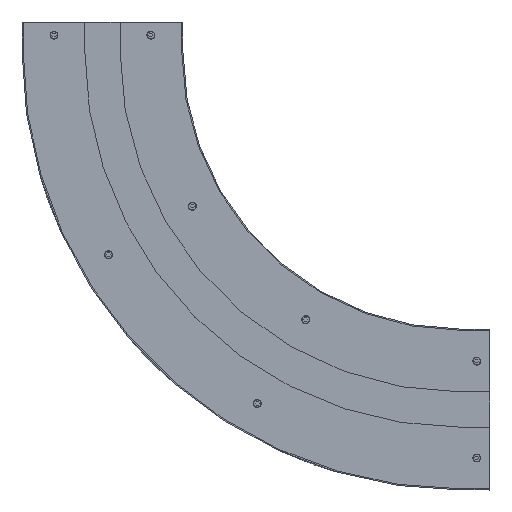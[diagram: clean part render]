
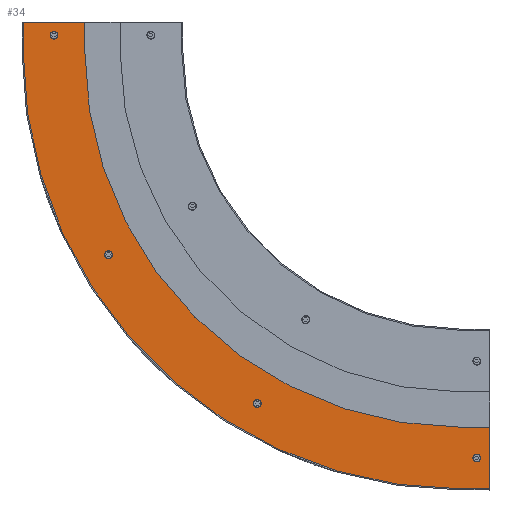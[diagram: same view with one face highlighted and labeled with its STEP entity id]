
A CAD part, front view. The second image highlights one B-rep face of the part: STEP entity #34.
In plain terms, the highlighted planar face has unit normal (0, -1, 0) as drawn and (0, 1, 0) by its records, which use the part's own axes.
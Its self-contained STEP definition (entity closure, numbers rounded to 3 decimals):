
#21 = DIRECTION ( 'NONE',  ( 0., 1., 0. ) ) ;
#34 = ADVANCED_FACE ( 'NONE', ( #12066, #2226, #9600, #5430, #9571 ), #6084, .T. ) ;
#70 = LINE ( 'NONE', #5749, #3692 ) ;
#71 = CARTESIAN_POINT ( 'NONE',  ( 10.277, 30., -396.25 ) ) ;
#352 = AXIS2_PLACEMENT_3D ( 'NONE', #2123, #8481, #1046 ) ;
#598 = CARTESIAN_POINT ( 'NONE',  ( 610., 30., -690. ) ) ;
#612 = ORIENTED_EDGE ( 'NONE', *, *, #12852, .T. ) ;
#738 = EDGE_CURVE ( 'NONE', #9533, #2835, #3886, .T. ) ;
#776 = AXIS2_PLACEMENT_3D ( 'NONE', #4100, #10478, #3029 ) ;
#836 = CARTESIAN_POINT ( 'NONE',  ( -135., 30., 0. ) ) ;
#990 = CARTESIAN_POINT ( 'NONE',  ( 263.75, 30., -656.473 ) ) ;
#1046 = DIRECTION ( 'NONE',  ( 0., 0., 1. ) ) ;
#1092 = CARTESIAN_POINT ( 'NONE',  ( 10.277, 30., -403. ) ) ;
#1164 = DIRECTION ( 'NONE',  ( 0., 0., 1. ) ) ;
#1190 = ORIENTED_EDGE ( 'NONE', *, *, #1720, .F. ) ;
#1462 = DIRECTION ( 'NONE',  ( 0., 0., -1. ) ) ;
#1553 = EDGE_CURVE ( 'NONE', #9915, #7689, #7328, .T. ) ;
#1608 = AXIS2_PLACEMENT_3D ( 'NONE', #7783, #6726, #2501 ) ;
#1612 = CARTESIAN_POINT ( 'NONE',  ( 610., 30., -690. ) ) ;
#1720 = EDGE_CURVE ( 'NONE', #2612, #12880, #5667, .T. ) ;
#1764 = VECTOR ( 'NONE', #10318, 1000. ) ;
#1841 = DIRECTION ( 'NONE',  ( 0., 1., 0. ) ) ;
#1845 = CARTESIAN_POINT ( 'NONE',  ( 637.5, 30., -742.5 ) ) ;
#2041 = ORIENTED_EDGE ( 'NONE', *, *, #4907, .F. ) ;
#2063 = ORIENTED_EDGE ( 'NONE', *, *, #11084, .F. ) ;
#2123 = CARTESIAN_POINT ( 'NONE',  ( 263.75, 30., -649.723 ) ) ;
#2183 = ORIENTED_EDGE ( 'NONE', *, *, #738, .T. ) ;
#2226 = FACE_BOUND ( 'NONE', #3026, .T. ) ;
#2341 = EDGE_CURVE ( 'NONE', #10658, #8914, #13626, .T. ) ;
#2436 = CARTESIAN_POINT ( 'NONE',  ( -82.5, 30., -22.5 ) ) ;
#2501 = DIRECTION ( 'NONE',  ( 0., 0., 1. ) ) ;
#2503 = AXIS2_PLACEMENT_3D ( 'NONE', #7672, #6609, #12967 ) ;
#2551 = CARTESIAN_POINT ( 'NONE',  ( 610., 30., -50. ) ) ;
#2572 = VERTEX_POINT ( 'NONE', #5765 ) ;
#2612 = VERTEX_POINT ( 'NONE', #5898 ) ;
#2835 = VERTEX_POINT ( 'NONE', #4144 ) ;
#2858 = DIRECTION ( 'NONE',  ( 0., 0., 1. ) ) ;
#2859 = DIRECTION ( 'NONE',  ( 0., 0., 1. ) ) ;
#2938 = EDGE_CURVE ( 'NONE', #12880, #5381, #7835, .T. ) ;
#2944 = CIRCLE ( 'NONE', #5417, 6.75 ) ;
#3006 = ORIENTED_EDGE ( 'NONE', *, *, #5939, .F. ) ;
#3026 = EDGE_LOOP ( 'NONE', ( #13556, #2041 ) ) ;
#3029 = DIRECTION ( 'NONE',  ( 0., 0., -1. ) ) ;
#3089 = CIRCLE ( 'NONE', #1608, 6.75 ) ;
#3274 = EDGE_LOOP ( 'NONE', ( #13790, #1190, #7801, #2183, #612, #10799, #10565, #5416 ) ) ;
#3504 = DIRECTION ( 'NONE',  ( 0., 0., 1. ) ) ;
#3639 = CIRCLE ( 'NONE', #2503, 6.75 ) ;
#3655 = AXIS2_PLACEMENT_3D ( 'NONE', #12780, #21, #7467 ) ;
#3680 = VECTOR ( 'NONE', #2858, 1000. ) ;
#3692 = VECTOR ( 'NONE', #10014, 1000. ) ;
#3756 = EDGE_LOOP ( 'NONE', ( #4483, #5233 ) ) ;
#3886 = LINE ( 'NONE', #598, #11626 ) ;
#4100 = CARTESIAN_POINT ( 'NONE',  ( 610., 30., -50. ) ) ;
#4144 = CARTESIAN_POINT ( 'NONE',  ( 660., 30., -690. ) ) ;
#4267 = LINE ( 'NONE', #10224, #1764 ) ;
#4483 = ORIENTED_EDGE ( 'NONE', *, *, #7387, .F. ) ;
#4589 = CIRCLE ( 'NONE', #6671, 6.75 ) ;
#4639 = CIRCLE ( 'NONE', #776, 745. ) ;
#4860 = CARTESIAN_POINT ( 'NONE',  ( 610., 30., -795. ) ) ;
#4907 = EDGE_CURVE ( 'NONE', #7047, #7193, #4589, .T. ) ;
#5004 = CARTESIAN_POINT ( 'NONE',  ( -135., 30., -50. ) ) ;
#5017 = LINE ( 'NONE', #10146, #8122 ) ;
#5123 = CARTESIAN_POINT ( 'NONE',  ( -82.5, 30., -15.75 ) ) ;
#5233 = ORIENTED_EDGE ( 'NONE', *, *, #2341, .F. ) ;
#5296 = AXIS2_PLACEMENT_3D ( 'NONE', #5004, #8151, #2859 ) ;
#5381 = VERTEX_POINT ( 'NONE', #10369 ) ;
#5416 = ORIENTED_EDGE ( 'NONE', *, *, #11485, .T. ) ;
#5417 = AXIS2_PLACEMENT_3D ( 'NONE', #8212, #1841, #8254 ) ;
#5430 = FACE_BOUND ( 'NONE', #8588, .T. ) ;
#5667 = LINE ( 'NONE', #9230, #3680 ) ;
#5749 = CARTESIAN_POINT ( 'NONE',  ( 610., 30., -795. ) ) ;
#5765 = CARTESIAN_POINT ( 'NONE',  ( 263.75, 30., -642.973 ) ) ;
#5898 = CARTESIAN_POINT ( 'NONE',  ( -30., 30., -50. ) ) ;
#5939 = EDGE_CURVE ( 'NONE', #8400, #2572, #2944, .T. ) ;
#6000 = CARTESIAN_POINT ( 'NONE',  ( -30., 30., 0. ) ) ;
#6084 = PLANE ( 'NONE',  #5296 ) ;
#6609 = DIRECTION ( 'NONE',  ( 0., 1., 0. ) ) ;
#6671 = AXIS2_PLACEMENT_3D ( 'NONE', #1845, #9701, #8278 ) ;
#6726 = DIRECTION ( 'NONE',  ( 0., 1., 0. ) ) ;
#6926 = CIRCLE ( 'NONE', #10176, 640. ) ;
#7047 = VERTEX_POINT ( 'NONE', #13342 ) ;
#7193 = VERTEX_POINT ( 'NONE', #11810 ) ;
#7243 = EDGE_CURVE ( 'NONE', #12395, #13378, #70, .T. ) ;
#7328 = CIRCLE ( 'NONE', #13746, 6.75 ) ;
#7387 = EDGE_CURVE ( 'NONE', #8914, #10658, #3639, .T. ) ;
#7467 = DIRECTION ( 'NONE',  ( 0., 0., 1. ) ) ;
#7531 = AXIS2_PLACEMENT_3D ( 'NONE', #2436, #9878, #3504 ) ;
#7544 = DIRECTION ( 'NONE',  ( 0., 1., 0. ) ) ;
#7672 = CARTESIAN_POINT ( 'NONE',  ( -82.5, 30., -22.5 ) ) ;
#7689 = VERTEX_POINT ( 'NONE', #10391 ) ;
#7753 = EDGE_CURVE ( 'NONE', #13618, #12395, #4639, .T. ) ;
#7783 = CARTESIAN_POINT ( 'NONE',  ( 10.277, 30., -396.25 ) ) ;
#7801 = ORIENTED_EDGE ( 'NONE', *, *, #10467, .T. ) ;
#7835 = LINE ( 'NONE', #836, #11042 ) ;
#7896 = EDGE_CURVE ( 'NONE', #7193, #7047, #10937, .T. ) ;
#8018 = CARTESIAN_POINT ( 'NONE',  ( -135., 30., -50. ) ) ;
#8122 = VECTOR ( 'NONE', #12260, 1000. ) ;
#8151 = DIRECTION ( 'NONE',  ( 0., 1., 0. ) ) ;
#8212 = CARTESIAN_POINT ( 'NONE',  ( 263.75, 30., -649.723 ) ) ;
#8254 = DIRECTION ( 'NONE',  ( 0., 0., 1. ) ) ;
#8275 = DIRECTION ( 'NONE',  ( -1., 0., 0. ) ) ;
#8278 = DIRECTION ( 'NONE',  ( 0., 0., 1. ) ) ;
#8400 = VERTEX_POINT ( 'NONE', #990 ) ;
#8481 = DIRECTION ( 'NONE',  ( 0., 1., 0. ) ) ;
#8588 = EDGE_LOOP ( 'NONE', ( #2063, #3006 ) ) ;
#8804 = DIRECTION ( 'NONE',  ( 1., 0., 0. ) ) ;
#8907 = DIRECTION ( 'NONE',  ( 0., -1., 0. ) ) ;
#8914 = VERTEX_POINT ( 'NONE', #5123 ) ;
#9230 = CARTESIAN_POINT ( 'NONE',  ( -30., 30., -50. ) ) ;
#9533 = VERTEX_POINT ( 'NONE', #1612 ) ;
#9571 = FACE_OUTER_BOUND ( 'NONE', #3274, .T. ) ;
#9600 = FACE_BOUND ( 'NONE', #10480, .T. ) ;
#9701 = DIRECTION ( 'NONE',  ( 0., 1., 0. ) ) ;
#9878 = DIRECTION ( 'NONE',  ( 0., 1., 0. ) ) ;
#9915 = VERTEX_POINT ( 'NONE', #1092 ) ;
#10014 = DIRECTION ( 'NONE',  ( 1., 0., 0. ) ) ;
#10118 = EDGE_CURVE ( 'NONE', #7689, #9915, #3089, .T. ) ;
#10146 = CARTESIAN_POINT ( 'NONE',  ( -135., 30., -50. ) ) ;
#10176 = AXIS2_PLACEMENT_3D ( 'NONE', #2551, #8907, #1462 ) ;
#10224 = CARTESIAN_POINT ( 'NONE',  ( 660., 30., -795. ) ) ;
#10318 = DIRECTION ( 'NONE',  ( 0., 0., -1. ) ) ;
#10369 = CARTESIAN_POINT ( 'NONE',  ( -135., 30., 0. ) ) ;
#10391 = CARTESIAN_POINT ( 'NONE',  ( 10.277, 30., -389.5 ) ) ;
#10467 = EDGE_CURVE ( 'NONE', #2612, #9533, #6926, .T. ) ;
#10478 = DIRECTION ( 'NONE',  ( 0., -1., 0. ) ) ;
#10480 = EDGE_LOOP ( 'NONE', ( #12786, #11696 ) ) ;
#10565 = ORIENTED_EDGE ( 'NONE', *, *, #7753, .F. ) ;
#10658 = VERTEX_POINT ( 'NONE', #13616 ) ;
#10799 = ORIENTED_EDGE ( 'NONE', *, *, #7243, .F. ) ;
#10883 = CIRCLE ( 'NONE', #352, 6.75 ) ;
#10937 = CIRCLE ( 'NONE', #3655, 6.75 ) ;
#11042 = VECTOR ( 'NONE', #8275, 1000. ) ;
#11084 = EDGE_CURVE ( 'NONE', #2572, #8400, #10883, .T. ) ;
#11485 = EDGE_CURVE ( 'NONE', #13618, #5381, #5017, .T. ) ;
#11626 = VECTOR ( 'NONE', #8804, 1000. ) ;
#11643 = CARTESIAN_POINT ( 'NONE',  ( 660., 30., -795. ) ) ;
#11696 = ORIENTED_EDGE ( 'NONE', *, *, #1553, .F. ) ;
#11810 = CARTESIAN_POINT ( 'NONE',  ( 637.5, 30., -735.75 ) ) ;
#12066 = FACE_BOUND ( 'NONE', #3756, .T. ) ;
#12260 = DIRECTION ( 'NONE',  ( 0., 0., 1. ) ) ;
#12395 = VERTEX_POINT ( 'NONE', #4860 ) ;
#12780 = CARTESIAN_POINT ( 'NONE',  ( 637.5, 30., -742.5 ) ) ;
#12786 = ORIENTED_EDGE ( 'NONE', *, *, #10118, .F. ) ;
#12852 = EDGE_CURVE ( 'NONE', #2835, #13378, #4267, .T. ) ;
#12880 = VERTEX_POINT ( 'NONE', #6000 ) ;
#12967 = DIRECTION ( 'NONE',  ( 0., 0., 1. ) ) ;
#13342 = CARTESIAN_POINT ( 'NONE',  ( 637.5, 30., -749.25 ) ) ;
#13378 = VERTEX_POINT ( 'NONE', #11643 ) ;
#13556 = ORIENTED_EDGE ( 'NONE', *, *, #7896, .F. ) ;
#13616 = CARTESIAN_POINT ( 'NONE',  ( -82.5, 30., -29.25 ) ) ;
#13618 = VERTEX_POINT ( 'NONE', #8018 ) ;
#13626 = CIRCLE ( 'NONE', #7531, 6.75 ) ;
#13746 = AXIS2_PLACEMENT_3D ( 'NONE', #71, #7544, #1164 ) ;
#13790 = ORIENTED_EDGE ( 'NONE', *, *, #2938, .F. ) ;
